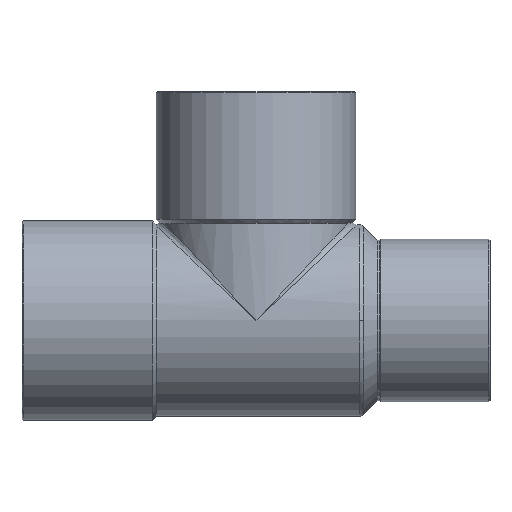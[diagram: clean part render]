
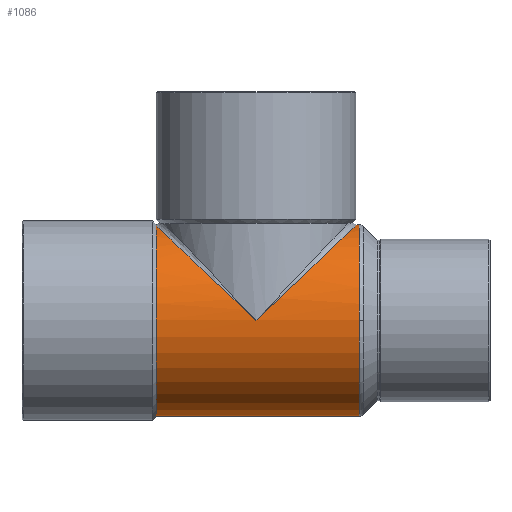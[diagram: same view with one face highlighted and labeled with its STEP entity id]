
A CAD part, top view. The second image highlights one B-rep face of the part: STEP entity #1086.
In plain terms, the highlighted cylindrical face has radius 18 mm (diameter 36 mm), a partial arc.
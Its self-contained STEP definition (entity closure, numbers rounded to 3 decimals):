
#354=CARTESIAN_POINT('',(-18.728,-18.,0.));
#355=VERTEX_POINT('',#354);
#362=CARTESIAN_POINT('',(-18.728,17.742,3.035));
#363=VERTEX_POINT('',#362);
#364=CARTESIAN_POINT('',(-18.728,0.0,0.0));
#365=DIRECTION('',(1.0,0.0,0.0));
#366=DIRECTION('',(0.0,1.0,0.0));
#367=AXIS2_PLACEMENT_3D('',#364,#365,#366);
#368=CIRCLE('',#367,18.);
#369=EDGE_CURVE('',#363,#355,#368,.T.);
#524=CARTESIAN_POINT('',(19.449,18.0,0.0));
#525=VERTEX_POINT('',#524);
#533=CARTESIAN_POINT('',(19.449,0.,18.0));
#534=VERTEX_POINT('',#533);
#535=CARTESIAN_POINT('',(19.449,0.0,0.0));
#536=DIRECTION('',(1.0,0.0,0.0));
#537=DIRECTION('',(0.0,-1.0,0.0));
#538=AXIS2_PLACEMENT_3D('',#535,#536,#537);
#539=CIRCLE('',#538,18.0);
#540=EDGE_CURVE('',#525,#534,#539,.T.);
#1038=CARTESIAN_POINT('',(0.567,0.0,0.0));
#1039=DIRECTION('',(1.0,0.0,0.0));
#1040=DIRECTION('',(0.0,1.0,0.0));
#1041=AXIS2_PLACEMENT_3D('',#1038,#1039,#1040);
#1042=CYLINDRICAL_SURFACE('',#1041,18.0);
#1043=CARTESIAN_POINT('',(19.0,18.0,0.));
#1044=VERTEX_POINT('',#1043);
#1045=CARTESIAN_POINT('',(19.0,18.0,0.));
#1046=DIRECTION('',(1.0,0.0,0.0));
#1047=VECTOR('',#1046,0.449);
#1048=LINE('',#1045,#1047);
#1049=EDGE_CURVE('',#1044,#525,#1048,.T.);
#1050=ORIENTED_EDGE('',*,*,#1049,.F.);
#1051=CARTESIAN_POINT('',(0.0,0.0,18.0));
#1052=VERTEX_POINT('',#1051);
#1053=CARTESIAN_POINT('',(0.0,0.0,0.0));
#1054=DIRECTION('',(-0.688,0.726,0.));
#1055=DIRECTION('',(0.726,0.688,0.0));
#1056=AXIS2_PLACEMENT_3D('',#1053,#1054,#1055);
#1057=ELLIPSE('',#1056,26.173,18.);
#1058=EDGE_CURVE('',#1052,#1044,#1057,.T.);
#1059=ORIENTED_EDGE('',*,*,#1058,.F.);
#1060=CARTESIAN_POINT('',(0.0,0.0,0.0));
#1061=DIRECTION('',(0.688,0.726,0.));
#1062=DIRECTION('',(-0.726,0.688,0.0));
#1063=AXIS2_PLACEMENT_3D('',#1060,#1061,#1062);
#1064=ELLIPSE('',#1063,26.173,18.);
#1065=EDGE_CURVE('',#363,#1052,#1064,.T.);
#1066=ORIENTED_EDGE('',*,*,#1065,.F.);
#1067=ORIENTED_EDGE('',*,*,#369,.T.);
#1068=CARTESIAN_POINT('',(19.449,-18.0,0.));
#1069=VERTEX_POINT('',#1068);
#1070=CARTESIAN_POINT('',(19.449,-18.0,0.));
#1071=DIRECTION('',(-1.0,0.0,0.0));
#1072=VECTOR('',#1071,38.177);
#1073=LINE('',#1070,#1072);
#1074=EDGE_CURVE('',#1069,#355,#1073,.T.);
#1075=ORIENTED_EDGE('',*,*,#1074,.F.);
#1076=CARTESIAN_POINT('',(19.449,0.0,0.0));
#1077=DIRECTION('',(1.0,0.0,0.0));
#1078=DIRECTION('',(0.0,-1.0,0.0));
#1079=AXIS2_PLACEMENT_3D('',#1076,#1077,#1078);
#1080=CIRCLE('',#1079,18.0);
#1081=EDGE_CURVE('',#534,#1069,#1080,.T.);
#1082=ORIENTED_EDGE('',*,*,#1081,.F.);
#1083=ORIENTED_EDGE('',*,*,#540,.F.);
#1084=EDGE_LOOP('',(#1050,#1059,#1066,#1067,#1075,#1082,#1083));
#1085=FACE_OUTER_BOUND('',#1084,.T.);
#1086=ADVANCED_FACE('',(#1085),#1042,.T.);
